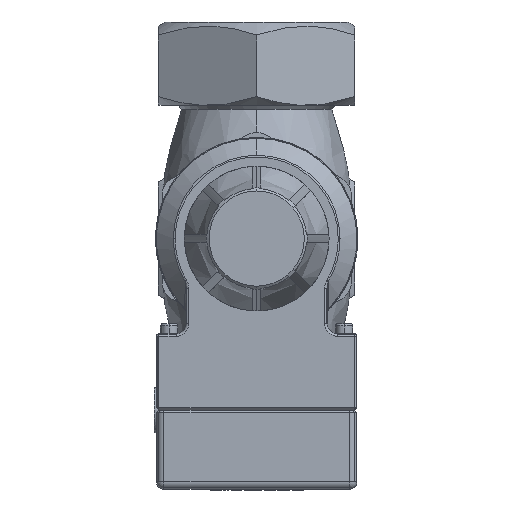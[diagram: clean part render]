
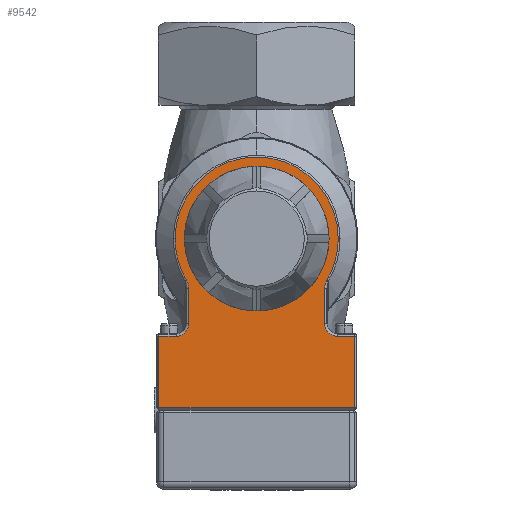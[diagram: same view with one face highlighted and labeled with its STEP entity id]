
A CAD part, front view. The second image highlights one B-rep face of the part: STEP entity #9542.
In plain terms, the highlighted free-form (B-spline) face has degree [1, 1] with [2, 2] control points.
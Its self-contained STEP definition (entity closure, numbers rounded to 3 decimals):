
#7113=CARTESIAN_POINT('',(48.75,-320.717,0.688));
#7114=VERTEX_POINT('',#7113);
#7144=CARTESIAN_POINT('',(48.75,-320.717,36.265));
#7145=VERTEX_POINT('',#7144);
#7153=CARTESIAN_POINT('',(48.75,-320.717,36.265));
#7154=DIRECTION('',(0.0,0.0,-1.0));
#7155=VECTOR('',#7154,35.577);
#7156=LINE('',#7153,#7155);
#7157=EDGE_CURVE('',#7145,#7114,#7156,.T.);
#7554=CARTESIAN_POINT('',(33.949,-320.717,60.013));
#7555=VERTEX_POINT('',#7554);
#7563=CARTESIAN_POINT('',(33.949,-320.717,42.515));
#7564=VERTEX_POINT('',#7563);
#7565=CARTESIAN_POINT('',(33.949,-320.717,60.013));
#7566=DIRECTION('',(0.0,0.0,-1.0));
#7567=VECTOR('',#7566,17.497);
#7568=LINE('',#7565,#7567);
#7569=EDGE_CURVE('',#7555,#7564,#7568,.T.);
#7796=CARTESIAN_POINT('',(-40.676,-320.717,85.));
#7797=VERTEX_POINT('',#7796);
#7814=CARTESIAN_POINT('',(-34.923,-320.717,64.145));
#7815=VERTEX_POINT('',#7814);
#7823=CARTESIAN_POINT('',(0.,-320.717,85.));
#7824=DIRECTION('',(0.0,1.0,0.0));
#7825=DIRECTION('',(0.0,0.0,1.0));
#7826=AXIS2_PLACEMENT_3D('',#7823,#7824,#7825);
#7827=CIRCLE('',#7826,40.676);
#7828=EDGE_CURVE('',#7815,#7797,#7827,.T.);
#7838=CARTESIAN_POINT('',(40.676,-320.717,85.));
#7839=VERTEX_POINT('',#7838);
#7847=CARTESIAN_POINT('',(34.923,-320.717,64.145));
#7848=VERTEX_POINT('',#7847);
#7849=CARTESIAN_POINT('',(0.,-320.717,85.));
#7850=DIRECTION('',(0.0,1.0,0.0));
#7851=DIRECTION('',(0.0,0.0,1.0));
#7852=AXIS2_PLACEMENT_3D('',#7849,#7850,#7851);
#7853=CIRCLE('',#7852,40.676);
#7854=EDGE_CURVE('',#7839,#7848,#7853,.T.);
#8542=CARTESIAN_POINT('',(33.949,-320.717,60.013));
#8543=CARTESIAN_POINT('',(33.949,-320.717,60.262));
#8544=CARTESIAN_POINT('',(33.958,-320.717,60.513));
#8545=CARTESIAN_POINT('',(33.997,-320.717,61.048));
#8546=CARTESIAN_POINT('',(34.03,-320.717,61.332));
#8547=CARTESIAN_POINT('',(34.104,-320.717,61.791));
#8548=CARTESIAN_POINT('',(34.137,-320.717,61.967));
#8549=CARTESIAN_POINT('',(34.194,-320.717,62.229));
#8550=CARTESIAN_POINT('',(34.214,-320.717,62.315));
#8551=CARTESIAN_POINT('',(34.271,-320.717,62.541));
#8552=CARTESIAN_POINT('',(34.309,-320.717,62.679));
#8553=CARTESIAN_POINT('',(34.418,-320.717,63.036));
#8554=CARTESIAN_POINT('',(34.495,-320.717,63.253));
#8555=CARTESIAN_POINT('',(34.681,-320.717,63.699));
#8556=CARTESIAN_POINT('',(34.793,-320.717,63.928));
#8557=CARTESIAN_POINT('',(34.923,-320.717,64.145));
#8558=B_SPLINE_CURVE_WITH_KNOTS('',3,(#8542,#8543,#8544,#8545,#8546,#8547,#8548,#8549,#8550,#8551,#8552,#8553,#8554,#8555,#8556,#8557),.UNSPECIFIED.,.F.,.U.,(4,2,2,2,2,2,2,4),(-4.28,-3.531,-2.675,-2.14,-1.872,-1.444,-0.76,0.),.UNSPECIFIED.);
#8559=EDGE_CURVE('',#7848,#7555,#8558,.F.);
#8653=CARTESIAN_POINT('',(-33.949,-320.717,60.013));
#8654=VERTEX_POINT('',#8653);
#8655=CARTESIAN_POINT('',(-34.923,-320.717,64.145));
#8656=CARTESIAN_POINT('',(-34.795,-320.717,63.931));
#8657=CARTESIAN_POINT('',(-34.684,-320.717,63.705));
#8658=CARTESIAN_POINT('',(-34.588,-320.717,63.474));
#8659=CARTESIAN_POINT('',(-34.477,-320.717,63.21));
#8660=CARTESIAN_POINT('',(-34.384,-320.717,62.937));
#8661=CARTESIAN_POINT('',(-34.305,-320.717,62.661));
#8662=CARTESIAN_POINT('',(-34.256,-320.717,62.489));
#8663=CARTESIAN_POINT('',(-34.213,-320.717,62.316));
#8664=CARTESIAN_POINT('',(-34.175,-320.717,62.142));
#8665=CARTESIAN_POINT('',(-34.156,-320.717,62.055));
#8666=CARTESIAN_POINT('',(-34.138,-320.717,61.967));
#8667=CARTESIAN_POINT('',(-34.121,-320.717,61.879));
#8668=CARTESIAN_POINT('',(-34.095,-320.717,61.739));
#8669=CARTESIAN_POINT('',(-34.072,-320.717,61.598));
#8670=CARTESIAN_POINT('',(-34.051,-320.717,61.456));
#8671=CARTESIAN_POINT('',(-34.019,-320.717,61.229));
#8672=CARTESIAN_POINT('',(-33.994,-320.717,61.001));
#8673=CARTESIAN_POINT('',(-33.977,-320.717,60.773));
#8674=CARTESIAN_POINT('',(-33.958,-320.717,60.52));
#8675=CARTESIAN_POINT('',(-33.949,-320.717,60.266));
#8676=CARTESIAN_POINT('',(-33.949,-320.717,60.013));
#8677=B_SPLINE_CURVE_WITH_KNOTS('',3,(#8655,#8656,#8657,#8658,#8659,#8660,#8661,#8662,#8663,#8664,#8665,#8666,#8667,#8668,#8669,#8670,#8671,#8672,#8673,#8674,#8675,#8676),.UNSPECIFIED.,.F.,.U.,(4,3,3,3,3,3,3,4),(-4.28,-3.531,-2.675,-2.14,-1.872,-1.444,-0.76,0.),.UNSPECIFIED.);
#8678=EDGE_CURVE('',#8654,#7815,#8677,.F.);
#8732=CARTESIAN_POINT('',(0.,-320.717,85.));
#8733=DIRECTION('',(0.0,1.0,0.0));
#8734=DIRECTION('',(0.0,0.0,1.0));
#8735=AXIS2_PLACEMENT_3D('',#8732,#8733,#8734);
#8736=CIRCLE('',#8735,40.676);
#8737=EDGE_CURVE('',#7797,#7839,#8736,.T.);
#8893=CARTESIAN_POINT('',(-48.75,-320.717,36.265));
#8894=VERTEX_POINT('',#8893);
#8902=CARTESIAN_POINT('',(-40.199,-320.717,36.265));
#8903=VERTEX_POINT('',#8902);
#8904=CARTESIAN_POINT('',(-48.75,-320.717,36.265));
#8905=DIRECTION('',(1.0,0.0,0.0));
#8906=VECTOR('',#8905,8.551);
#8907=LINE('',#8904,#8906);
#8908=EDGE_CURVE('',#8894,#8903,#8907,.T.);
#8925=CARTESIAN_POINT('',(-33.949,-320.717,42.515));
#8926=VERTEX_POINT('',#8925);
#8945=CARTESIAN_POINT('',(-40.199,-320.717,42.515));
#8946=DIRECTION('',(0.,-1.0,0.));
#8947=DIRECTION('',(0.707,0.,-0.707));
#8948=AXIS2_PLACEMENT_3D('',#8945,#8946,#8947);
#8949=CIRCLE('',#8948,6.25);
#8950=EDGE_CURVE('',#8903,#8926,#8949,.T.);
#8962=CARTESIAN_POINT('',(-33.949,-320.717,42.515));
#8963=DIRECTION('',(0.0,0.0,1.0));
#8964=VECTOR('',#8963,17.497);
#8965=LINE('',#8962,#8964);
#8966=EDGE_CURVE('',#8926,#8654,#8965,.T.);
#9121=CARTESIAN_POINT('',(40.199,-320.717,36.265));
#9122=VERTEX_POINT('',#9121);
#9141=CARTESIAN_POINT('',(40.199,-320.717,42.515));
#9142=DIRECTION('',(0.,-1.0,0.));
#9143=DIRECTION('',(-0.707,0.,-0.707));
#9144=AXIS2_PLACEMENT_3D('',#9141,#9142,#9143);
#9145=CIRCLE('',#9144,6.25);
#9146=EDGE_CURVE('',#7564,#9122,#9145,.T.);
#9158=CARTESIAN_POINT('',(40.199,-320.717,36.265));
#9159=DIRECTION('',(1.0,0.0,0.0));
#9160=VECTOR('',#9159,8.551);
#9161=LINE('',#9158,#9160);
#9162=EDGE_CURVE('',#9122,#7145,#9161,.T.);
#9509=CARTESIAN_POINT('',(-48.75,-320.717,125.676));
#9510=CARTESIAN_POINT('',(-48.75,-320.717,0.688));
#9511=CARTESIAN_POINT('',(48.75,-320.717,125.676));
#9512=CARTESIAN_POINT('',(48.75,-320.717,0.688));
#9513=B_SPLINE_SURFACE_WITH_KNOTS('',1,1,((#9509,#9511),(#9510,#9512)),.UNSPECIFIED.,.F.,.F.,.U.,(2,2),(2,2),(0.0,124.987),(0.0,97.5),.UNSPECIFIED.);
#9514=CARTESIAN_POINT('',(-48.75,-320.717,0.688));
#9515=VERTEX_POINT('',#9514);
#9516=CARTESIAN_POINT('',(-48.75,-320.717,0.688));
#9517=DIRECTION('',(0.0,0.0,1.0));
#9518=VECTOR('',#9517,35.577);
#9519=LINE('',#9516,#9518);
#9520=EDGE_CURVE('',#9515,#8894,#9519,.T.);
#9521=ORIENTED_EDGE('',*,*,#9520,.F.);
#9522=CARTESIAN_POINT('',(48.75,-320.717,0.688));
#9523=DIRECTION('',(-1.0,0.0,0.0));
#9524=VECTOR('',#9523,97.5);
#9525=LINE('',#9522,#9524);
#9526=EDGE_CURVE('',#7114,#9515,#9525,.T.);
#9527=ORIENTED_EDGE('',*,*,#9526,.F.);
#9528=ORIENTED_EDGE('',*,*,#7157,.F.);
#9529=ORIENTED_EDGE('',*,*,#9162,.F.);
#9530=ORIENTED_EDGE('',*,*,#9146,.F.);
#9531=ORIENTED_EDGE('',*,*,#7569,.F.);
#9532=ORIENTED_EDGE('',*,*,#8559,.F.);
#9533=ORIENTED_EDGE('',*,*,#7854,.F.);
#9534=ORIENTED_EDGE('',*,*,#8737,.F.);
#9535=ORIENTED_EDGE('',*,*,#7828,.F.);
#9536=ORIENTED_EDGE('',*,*,#8678,.F.);
#9537=ORIENTED_EDGE('',*,*,#8966,.F.);
#9538=ORIENTED_EDGE('',*,*,#8950,.F.);
#9539=ORIENTED_EDGE('',*,*,#8908,.F.);
#9540=EDGE_LOOP('',(#9521,#9527,#9528,#9529,#9530,#9531,#9532,#9533,#9534,#9535,#9536,#9537,#9538,#9539));
#9541=FACE_OUTER_BOUND('',#9540,.T.);
#9542=ADVANCED_FACE('',(#9541),#9513,.T.);
